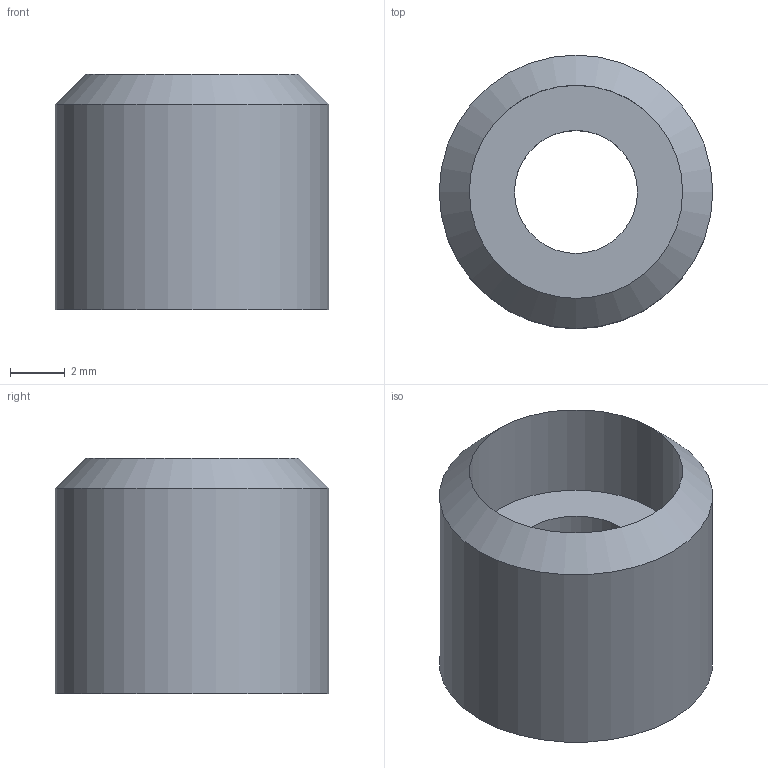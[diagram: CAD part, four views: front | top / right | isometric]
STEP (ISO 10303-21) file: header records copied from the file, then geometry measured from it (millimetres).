
FILE_DESCRIPTION(('Open CASCADE Model'),'2;1');
FILE_NAME('Open CASCADE Shape Model','2026-10-06T19:56:10',('Author'),( 'Open CASCADE'),'Open CASCADE STEP processor 7.9','Open CASCADE 7.9' ,'Unknown');
FILE_SCHEMA(('AUTOMOTIVE_DESIGN { 1 0 10303 214 1 1 1 1 }'));
Length unit declared in the file: millimetre
Products named in the file (1): Open CASCADE STEP translator 7.9 30
Bounding box: 10 x 10 x 8.6 mm (x, y, z)
Volume: 406.3 mm3; surface area: 532.5 mm2
Topology: 1 solids, 1 shells, 6 faces, 10 edges, 6 vertices
Faces by surface type: cylinder 3, plane 2, cone 1
Full cylindrical faces by diameter (mm): 4.5 x1, 7.8 x1, 10 x1
Entity records: 292 total; most frequent: CARTESIAN_POINT 57, DIRECTION 46, ORIENTED_EDGE 20, PCURVE 20, DEFINITIONAL_REPRESENTATION 20, LINE 18, VECTOR 18, AXIS2_PLACEMENT_3D 13
